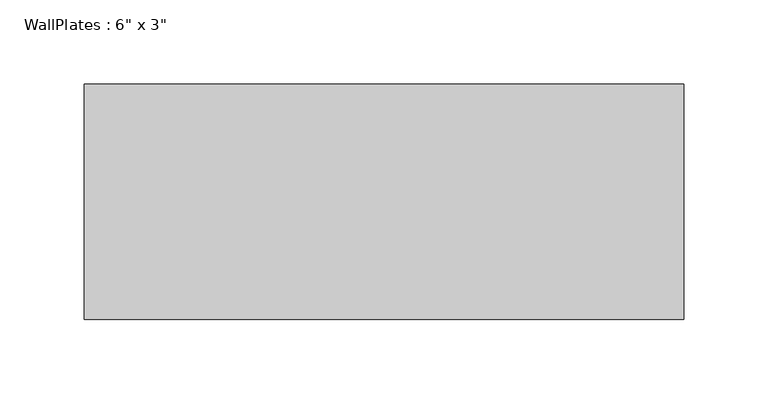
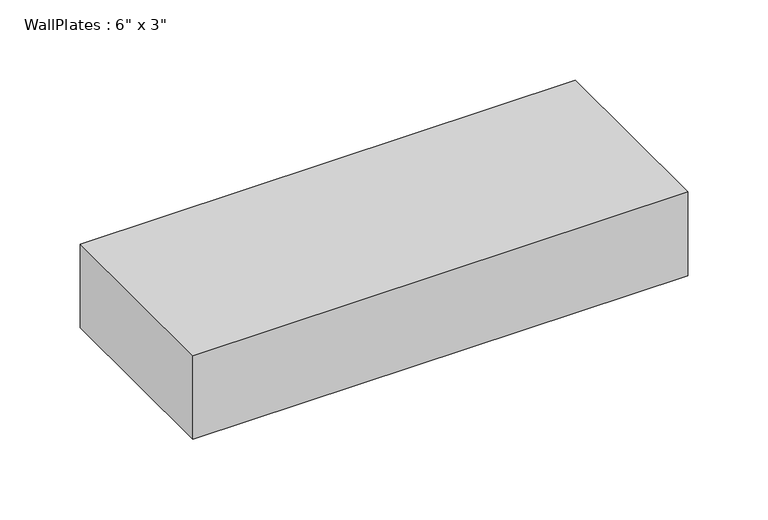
"""IFC4 building model written with IfcOpenShell, lengths in millimetres: beam geometry."""

from ifc_helpers import new_model, si_unit, frame, origin, place, context, project, spatial, polyline, outline, extrude, source, transform, mapped, element, save


def beam_2e444c4d(model_context):
    return source(origin(), model_context, "Body", "SweptSolid", [
        extrude(outline(polyline([(-177.805, -69.85), (-177.805, 69.85), (177.805, 69.85), (177.805, -69.85), (-177.805, -69.85)])), frame((0.0, 0.0, -31.75), z_axis=(0.0, 0.0, 1.0), x_axis=(1.0, 0.0, 0.0)), (0.0, 0.0, 1.0), 63.5),
    ])


if __name__ == "__main__":
    model = new_model("IFC4")
    model_context = context("Model", 3, world=origin())
    ifc_project = project(units=[si_unit("LENGTHUNIT", "METRE", prefix="MILLI")], contexts=[model_context])
    site = spatial("IfcSite", under=ifc_project)
    building = spatial("IfcBuilding", under=site)
    placement = place(None, origin())
    beam_shape = beam_2e444c4d(model_context)
    element("IfcBeam", 1, ObjectType="WallPlates : 6\" x 3\"", at=placement, inside=building, context=model_context, shape_type="MappedRepresentation", body=[
        mapped(beam_shape, transform((0.0, 0.0, 0.0), x_axis=(1.0, 0.0, 0.0), y_axis=(0.0, 1.0, 0.0), z_axis=(0.0, 0.0, 1.0))),
    ])
    save(model, "model.ifc")
